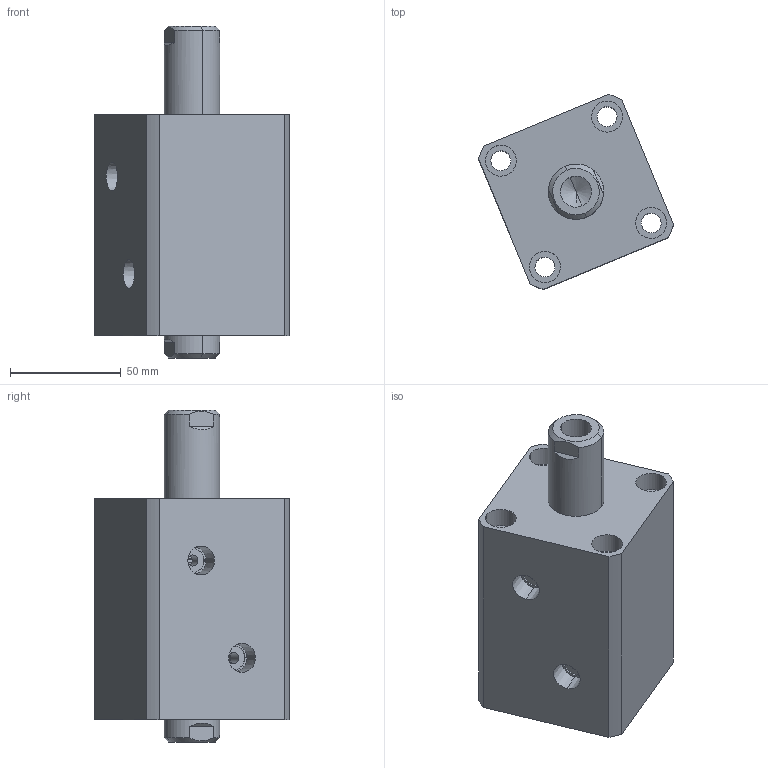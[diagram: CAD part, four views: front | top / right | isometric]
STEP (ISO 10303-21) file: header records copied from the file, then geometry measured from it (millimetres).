
FILE_DESCRIPTION (( 'STEP AP214' ), '1' );
FILE_NAME ('chtb-sw40x30n_asm.STEP', '2018-06-08T11:34:14', ( 'Windows' ), ( 'Microsoft' ), 'SwSTEP 2.0', 'SolidWorks 2015', '' );
FILE_SCHEMA (( 'AUTOMOTIVE_DESIGN' ));
Length unit declared in the file: millimetre
Products named in the file (4): CHTB-SW40X30NHSG; CHTB-SW40X30NBT; CHTB-SD40QG; chtb-sw40x30n_asm
Assembly tree (3 placements, depth 2):
  chtb-sw40x30n_asm
    CHTB-SD40QG
    CHTB-SW40X30NBT
    CHTB-SW40X30NHSG
Bounding box: 88.11 x 88.11 x 150 mm (x, y, z)
Volume: 443187.2 mm3; surface area: 88012.8 mm2
Topology: 3 solids, 3 shells, 167 faces, 429 edges, 282 vertices
Faces by surface type: cylinder 84, plane 40, cone 17, bspline 14, torus 12
Entity records: 10325 total; most frequent: CARTESIAN_POINT 6131, ORIENTED_EDGE 838, DIRECTION 822, EDGE_CURVE 419, AXIS2_PLACEMENT_3D 348, VERTEX_POINT 282, EDGE_LOOP 207, CIRCLE 189
